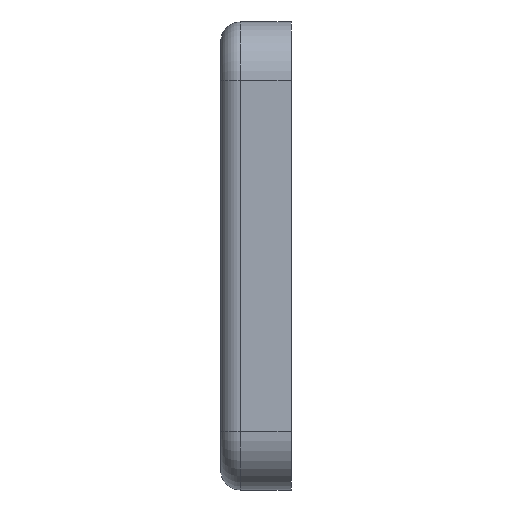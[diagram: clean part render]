
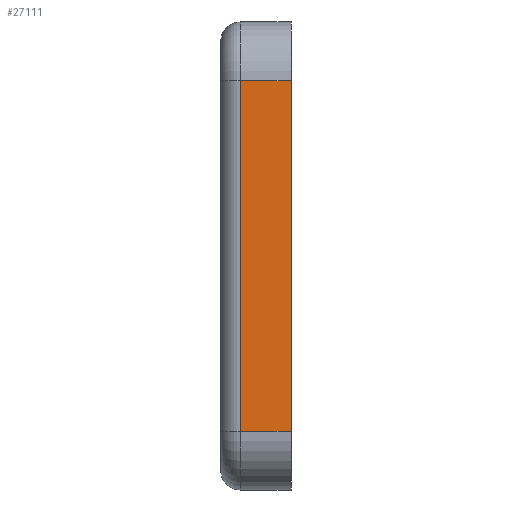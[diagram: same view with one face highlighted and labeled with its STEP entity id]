
A CAD part, left-side view. The second image highlights one B-rep face of the part: STEP entity #27111.
In plain terms, the highlighted planar face has unit normal (-1, 0, 0).
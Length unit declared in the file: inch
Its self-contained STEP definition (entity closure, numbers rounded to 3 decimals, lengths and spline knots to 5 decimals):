
#2304 = EDGE_CURVE ( 'NONE', #4527, #14809, #40256, .T. ) ;
#4527 = VERTEX_POINT ( 'NONE', #46412 ) ;
#5528 = VERTEX_POINT ( 'NONE', #52095 ) ;
#10998 = LINE ( 'NONE', #34571, #73238 ) ;
#11330 = ORIENTED_EDGE ( 'NONE', *, *, #73248, .F. ) ;
#14809 = VERTEX_POINT ( 'NONE', #57964 ) ;
#16534 = FACE_OUTER_BOUND ( 'NONE', #57227, .T. ) ;
#18878 = CARTESIAN_POINT ( 'NONE',  ( -4.23564, 0.65, -2.23814 ) ) ;
#23905 = ORIENTED_EDGE ( 'NONE', *, *, #36360, .T. ) ;
#24716 = VECTOR ( 'NONE', #42033, 39.37008 ) ;
#25139 = ORIENTED_EDGE ( 'NONE', *, *, #44770, .T. ) ;
#25588 = CARTESIAN_POINT ( 'NONE',  ( -4.23564, 0.65, 2.23814 ) ) ;
#27111 = ADVANCED_FACE ( 'NONE', ( #16534 ), #40539, .T. ) ;
#27332 = LINE ( 'NONE', #18878, #58490 ) ;
#29297 = DIRECTION ( 'NONE',  ( -1., 0., 0. ) ) ;
#34571 = CARTESIAN_POINT ( 'NONE',  ( -4.23564, 0.9, 2.23814 ) ) ;
#36360 = EDGE_CURVE ( 'NONE', #5528, #68956, #10998, .T. ) ;
#38053 = VECTOR ( 'NONE', #62045, 39.37008 ) ;
#40256 = LINE ( 'NONE', #59471, #24716 ) ;
#40539 = PLANE ( 'NONE',  #46739 ) ;
#42033 = DIRECTION ( 'NONE',  ( 0., -1., 0. ) ) ;
#43859 = CARTESIAN_POINT ( 'NONE',  ( -4.23564, 0., 2.98814 ) ) ;
#44770 = EDGE_CURVE ( 'NONE', #68956, #4527, #27332, .T. ) ;
#46412 = CARTESIAN_POINT ( 'NONE',  ( -4.23564, 0.65, -2.23814 ) ) ;
#46739 = AXIS2_PLACEMENT_3D ( 'NONE', #64363, #29297, #70217 ) ;
#52095 = CARTESIAN_POINT ( 'NONE',  ( -4.23564, 0., 2.23814 ) ) ;
#57227 = EDGE_LOOP ( 'NONE', ( #23905, #25139, #67936, #11330 ) ) ;
#57964 = CARTESIAN_POINT ( 'NONE',  ( -4.23564, 0., -2.23814 ) ) ;
#58490 = VECTOR ( 'NONE', #59862, 39.37008 ) ;
#59471 = CARTESIAN_POINT ( 'NONE',  ( -4.23564, 0.9, -2.23814 ) ) ;
#59862 = DIRECTION ( 'NONE',  ( 0., 0., -1. ) ) ;
#62045 = DIRECTION ( 'NONE',  ( 0., 0., -1. ) ) ;
#64363 = CARTESIAN_POINT ( 'NONE',  ( -4.23564, 0.9, 2.98814 ) ) ;
#67936 = ORIENTED_EDGE ( 'NONE', *, *, #2304, .T. ) ;
#68956 = VERTEX_POINT ( 'NONE', #25588 ) ;
#69196 = LINE ( 'NONE', #43859, #38053 ) ;
#70217 = DIRECTION ( 'NONE',  ( 0., 0., 1. ) ) ;
#73238 = VECTOR ( 'NONE', #75471, 39.37008 ) ;
#73248 = EDGE_CURVE ( 'NONE', #5528, #14809, #69196, .T. ) ;
#75471 = DIRECTION ( 'NONE',  ( 0., 1., 0. ) ) ;
